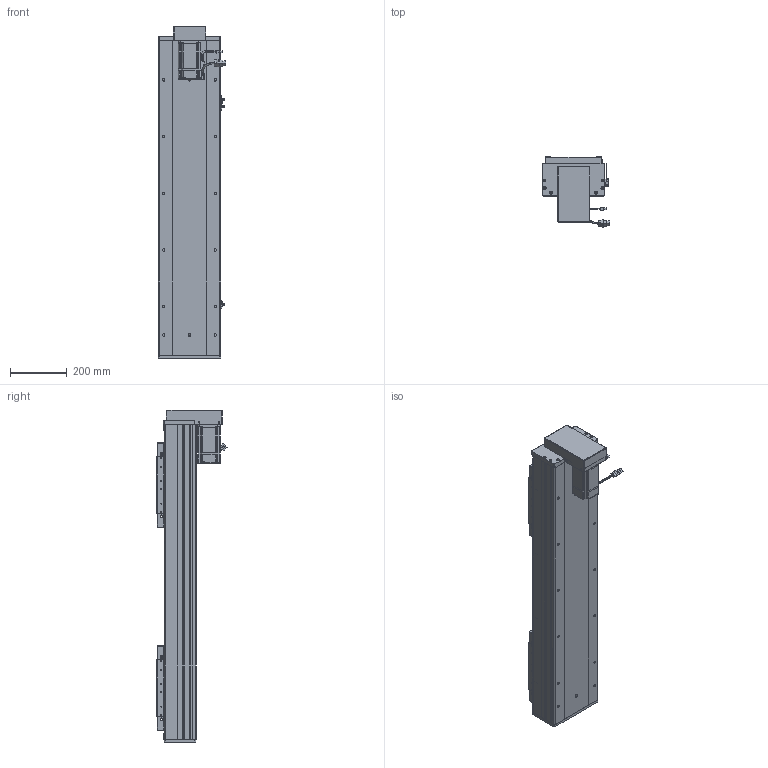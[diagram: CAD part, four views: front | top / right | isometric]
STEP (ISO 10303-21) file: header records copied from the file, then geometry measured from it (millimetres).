
FILE_DESCRIPTION (( 'STEP AP203' ), '1' );
FILE_NAME ('RY220F-L2525-300-BK.SLDASM_700.step', '2022-07-04T01:20:36', ( '' ), ( '' ), 'SwSTEP 2.0', 'SolidWorks 2016', '' );
FILE_SCHEMA (( 'CONFIG_CONTROL_DESIGN' ));
Length unit declared in the file: millimetre
Products named in the file (15): 侐源滅袉蝶; 怢湛750W_ECMA-CX0807ES; RY220F-蛌殏奻裔啣-300_700; RY220F臏賑釱25-32佪裝; RY220F綴裔啣; RY220F-祥凄詩湍-蛌殏-300_700; 滅袉蝶18-24; RY220狟殏萇儂假蚾啣; RY220F蛌殏菁釱-300_700; RY220F-672覜茼んえ; RY220狟殏萇儂欶; RY220F-滅鳥奻裔; 覜茼ん672; RY220F-詩湍揤踡輸; RY220F-L2525-300-BK.SLDASM_700
Assembly tree (24 placements, depth 2):
  RY220F-L2525-300-BK.SLDASM_700
    RY220F蛌殏菁釱-300_700
    RY220F-蛌殏奻裔啣-300_700  x2
    怢湛750W_ECMA-CX0807ES
    RY220F臏賑釱25-32佪裝  x2
    RY220F-滅鳥奻裔  x2
    滅袉蝶18-24  x3
    RY220F綴裔啣
    RY220F-祥凄詩湍-蛌殏-300_700
    RY220F-詩湍揤踡輸  x2
    覜茼ん672  x3
    RY220F-672覜茼んえ  x2
    侐源滅袉蝶  x2
    RY220狟殏萇儂假蚾啣
    RY220狟殏萇儂欶
Bounding box: 237.27 x 247.24 x 1171 mm (x, y, z)
Volume: 12441116.8 mm3; surface area: 3159103.8 mm2
Topology: 25 solids, 25 shells, 2703 faces, 7358 edges, 4569 vertices
Faces by surface type: cylinder 1194, plane 1062, cone 376, bspline 45, sphere 16, torus 10
Entity records: 66849 total; most frequent: CARTESIAN_POINT 18363, ORIENTED_EDGE 9834, DIRECTION 9457, EDGE_CURVE 4917, AXIS2_PLACEMENT_3D 3330, VERTEX_POINT 3185, VECTOR 2797, LINE 2797
